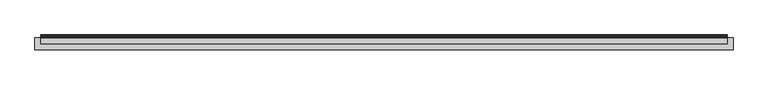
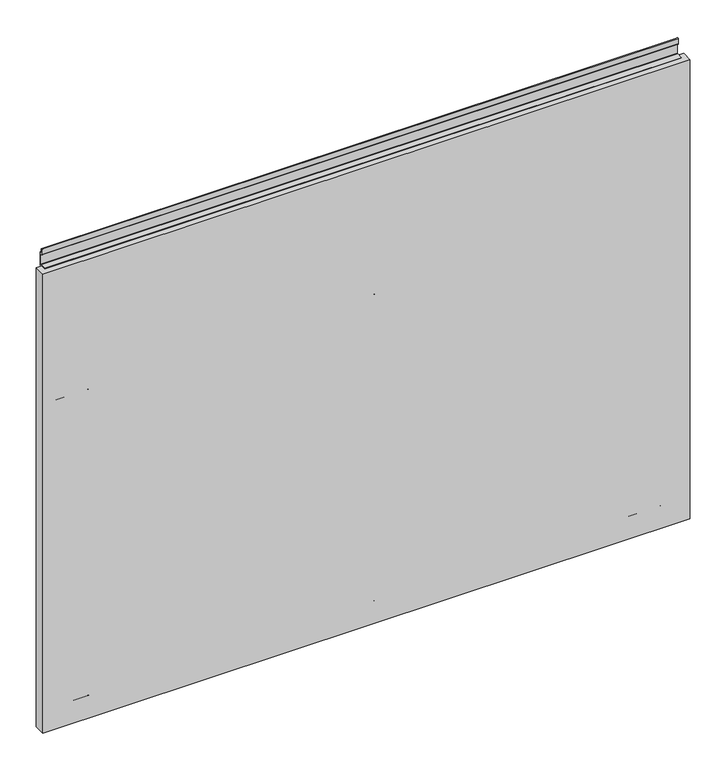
"""IFC4 building model written with IfcOpenShell, lengths in millimetres: furniture geometry, Geiger_GeigerOneCasegoods_WallTileAcceptsTileAboveFabric : RR Fabric 60Wx 1.25Dx 45H."""

from ifc_helpers import new_model, si_unit, point, frame, frame_2d, origin, origin_with_axes, place, context, project, spatial, polyline, circle_curve, trimmed, segment, composite_curve, outline, extrude, source, transform, mapped, element, save


def furniture_4866d010(model_context):
    return source(origin(), model_context, "Body", "SweptSolid", [
        extrude(outline(composite_curve([segment(polyline([(-3.5052, 46.3366), (-2.6924, 45.5238), (-0.8128, 45.5238), (0.0, 44.7364), (0.0, 31.3197095)]), True, "CONTINUOUS"), segment(trimmed(circle_curve(frame_2d((-0.7973236, 31.3197095)), 0.7973236), [point((0.0, 31.3197095))], [point((-1.3611166, 30.7559166))], False, "CARTESIAN"), True, "CONTINUOUS"), segment(polyline([(-1.3611166, 30.7559166), (-2.8956, 32.2904), (-2.8956, 39.2246), (-3.7084, 40.012), (-5.6134, 40.012), (-6.4008, 40.8248), (-6.4008, 72.524), (-5.1054, 72.524), (-3.5052, 70.9238), (-3.5052, 46.3366)]), True, "CONTINUOUS")], self_intersect=False)), frame((50.0016, 0.0, 0.0), z_axis=(1.0, 0.0, 0.0), x_axis=(0.0, 1.0, 0.0)), (0.0, 0.0, 1.0), 75.9968),
        extrude(outline(composite_curve([segment(polyline([(-3.5052, 46.3366), (-2.6924, 45.5238), (-0.8128, 45.5238), (0.0, 44.7364), (0.0, 31.3197095)]), True, "CONTINUOUS"), segment(trimmed(circle_curve(frame_2d((-0.7973236, 31.3197095)), 0.7973236), [point((0.0, 31.3197095))], [point((-1.3611166, 30.7559166))], False, "CARTESIAN"), True, "CONTINUOUS"), segment(polyline([(-1.3611166, 30.7559166), (-2.8956, 32.2904), (-2.8956, 39.2246), (-3.7084, 40.012), (-5.6134, 40.012), (-6.4008, 40.8248), (-6.4008, 72.524), (-5.1054, 72.524), (-3.5052, 70.9238), (-3.5052, 46.3366)]), True, "CONTINUOUS")], self_intersect=False)), frame((724.0016, 0.0, 0.0), z_axis=(1.0, 0.0, 0.0), x_axis=(0.0, 1.0, 0.0)), (0.0, 0.0, 1.0), 75.9968),
        extrude(outline(composite_curve([segment(polyline([(-3.5052, 46.3366), (-2.6924, 45.5238), (-0.8128, 45.5238), (0.0, 44.7364), (0.0, 31.3197095)]), True, "CONTINUOUS"), segment(trimmed(circle_curve(frame_2d((-0.7973236, 31.3197095)), 0.7973236), [point((0.0, 31.3197095))], [point((-1.3611166, 30.7559166))], False, "CARTESIAN"), True, "CONTINUOUS"), segment(polyline([(-1.3611166, 30.7559166), (-2.8956, 32.2904), (-2.8956, 39.2246), (-3.7084, 40.012), (-5.6134, 40.012), (-6.4008, 40.8248), (-6.4008, 72.524), (-5.1054, 72.524), (-3.5052, 70.9238), (-3.5052, 46.3366)]), True, "CONTINUOUS")], self_intersect=False)), frame((724.0016, 0.0, 0.0), z_axis=(1.0, 0.0, 0.0), x_axis=(0.0, 1.0, 0.0)), (0.0, 0.0, 1.0), 75.9968),
        extrude(outline(composite_curve([segment(polyline([(-3.5052, 808.2186), (-2.6924, 807.4058), (-0.8128, 807.4058), (0.0, 806.6184), (0.0, 793.2017095)]), True, "CONTINUOUS"), segment(trimmed(circle_curve(frame_2d((-0.7973236, 793.2017095)), 0.7973236), [point((0.0, 793.2017095))], [point((-1.3611166, 792.6379166))], False, "CARTESIAN"), True, "CONTINUOUS"), segment(polyline([(-1.3611166, 792.6379166), (-2.8956, 794.1724), (-2.8956, 801.1066), (-3.7084, 801.894), (-5.6134, 801.894), (-6.4008, 802.7068), (-6.4008, 834.406), (-5.1054, 834.406), (-3.5052, 832.8058), (-3.5052, 808.2186)]), True, "CONTINUOUS")], self_intersect=False)), frame((724.0016, 0.0, 0.0), z_axis=(1.0, 0.0, 0.0), x_axis=(0.0, 1.0, 0.0)), (0.0, 0.0, 1.0), 75.9968),
        extrude(outline(composite_curve([segment(polyline([(-3.5052, 808.2186), (-2.6924, 807.4058), (-0.8128, 807.4058), (0.0, 806.6184), (0.0, 793.2017095)]), True, "CONTINUOUS"), segment(trimmed(circle_curve(frame_2d((-0.7973236, 793.2017095)), 0.7973236), [point((0.0, 793.2017095))], [point((-1.3611166, 792.6379166))], False, "CARTESIAN"), True, "CONTINUOUS"), segment(polyline([(-1.3611166, 792.6379166), (-2.8956, 794.1724), (-2.8956, 801.1066), (-3.7084, 801.894), (-5.6134, 801.894), (-6.4008, 802.7068), (-6.4008, 834.406), (-5.1054, 834.406), (-3.5052, 832.8058), (-3.5052, 808.2186)]), True, "CONTINUOUS")], self_intersect=False)), frame((724.0016, 0.0, 0.0), z_axis=(1.0, 0.0, 0.0), x_axis=(0.0, 1.0, 0.0)), (0.0, 0.0, 1.0), 75.9968),
        extrude(outline(composite_curve([segment(polyline([(-3.5052, 808.2186), (-2.6924, 807.4058), (-0.8128, 807.4058), (0.0, 806.6184), (0.0, 793.2017095)]), True, "CONTINUOUS"), segment(trimmed(circle_curve(frame_2d((-0.7973236, 793.2017095)), 0.7973236), [point((0.0, 793.2017095))], [point((-1.3611166, 792.6379166))], False, "CARTESIAN"), True, "CONTINUOUS"), segment(polyline([(-1.3611166, 792.6379166), (-2.8956, 794.1724), (-2.8956, 801.1066), (-3.7084, 801.894), (-5.6134, 801.894), (-6.4008, 802.7068), (-6.4008, 834.406), (-5.1054, 834.406), (-3.5052, 832.8058), (-3.5052, 808.2186)]), True, "CONTINUOUS")], self_intersect=False)), frame((50.0016, 0.0, 0.0), z_axis=(1.0, 0.0, 0.0), x_axis=(0.0, 1.0, 0.0)), (0.0, 0.0, 1.0), 75.9968),
        extrude(outline(composite_curve([segment(polyline([(-3.5052, 808.2186), (-2.6924, 807.4058), (-0.8128, 807.4058), (0.0, 806.6184), (0.0, 793.2017095)]), True, "CONTINUOUS"), segment(trimmed(circle_curve(frame_2d((-0.7973236, 793.2017095)), 0.7973236), [point((0.0, 793.2017095))], [point((-1.3611166, 792.6379166))], False, "CARTESIAN"), True, "CONTINUOUS"), segment(polyline([(-1.3611166, 792.6379166), (-2.8956, 794.1724), (-2.8956, 801.1066), (-3.7084, 801.894), (-5.6134, 801.894), (-6.4008, 802.7068), (-6.4008, 834.406), (-5.1054, 834.406), (-3.5052, 832.8058), (-3.5052, 808.2186)]), True, "CONTINUOUS")], self_intersect=False)), frame((1398.0016, 0.0, 0.0), z_axis=(1.0, 0.0, 0.0), x_axis=(0.0, 1.0, 0.0)), (0.0, 0.0, 1.0), 75.9968),
        extrude(outline(composite_curve([segment(polyline([(-3.506, 800.1156), (-3.506, 793.1814), (-2.6932, 792.394), (-0.7882, 792.394), (-0.0008, 791.5812), (-0.0008, 759.882), (-1.2962, 759.882), (-2.8964, 761.4822), (-2.8964, 786.0694), (-3.7092, 786.8822), (-5.5888, 786.8822), (-6.4016, 787.6696), (-6.4016, 801.0883458)]), True, "CONTINUOUS"), segment(trimmed(circle_curve(frame_2d((-5.6051277, 801.0883458)), 0.7964723), [point((-6.4016, 801.0883458))], [point((-5.0419368, 801.6515368))], False, "CARTESIAN"), True, "CONTINUOUS"), segment(polyline([(-5.0419368, 801.6515368), (-3.506, 800.1156)]), True, "CONTINUOUS")], self_intersect=False)), frame((12.5, 0.0, 0.0), z_axis=(1.0, 0.0, 0.0), x_axis=(0.0, 1.0, 0.0)), (0.0, 0.0, 1.0), 1499.0),
        extrude(outline(polyline([(1524.0, -6.4008), (1524.0, -32.4008), (0.0, -32.4008), (0.0, -6.4008), (1524.0, -6.4008)])), origin_with_axes(), (0.0, 0.0, 1.0), 1142.0),
        extrude(outline(composite_curve([segment(polyline([(-3.5052, 46.3366), (-2.6924, 45.5238), (-0.8128, 45.5238), (0.0, 44.7364), (0.0, 31.3197095)]), True, "CONTINUOUS"), segment(trimmed(circle_curve(frame_2d((-0.7973236, 31.3197095)), 0.7973236), [point((0.0, 31.3197095))], [point((-1.3611166, 30.7559166))], False, "CARTESIAN"), True, "CONTINUOUS"), segment(polyline([(-1.3611166, 30.7559166), (-2.8956, 32.2904), (-2.8956, 39.2246), (-3.7084, 40.012), (-5.6134, 40.012), (-6.4008, 40.8248), (-6.4008, 72.524), (-5.1054, 72.524), (-3.5052, 70.9238), (-3.5052, 46.3366)]), True, "CONTINUOUS")], self_intersect=False)), frame((1398.0, 0.0, 0.0), z_axis=(1.0, 0.0, 0.0), x_axis=(0.0, 1.0, 0.0)), (0.0, 0.0, 1.0), 76.0),
        extrude(outline(composite_curve([segment(polyline([(-3.5052, 1182.2336), (-3.5052, 1175.2994), (-2.7178, 1174.512), (-0.8128, 1174.512), (0.0, 1173.6992), (0.0, 1140.3998), (-2.6924, 1140.3998), (-3.5052, 1139.6124), (-3.5052, 1125.8964), (-2.6924, 1125.109), (0.0, 1125.109), (0.0, 1122.188), (-5.6134, 1122.188), (-6.4008, 1123.0008), (-6.4008, 1142.0), (-18.9992, 1142.0), (-18.9992, 1143.6002), (-3.7084, 1143.6002), (-2.8956, 1144.3876), (-2.8956, 1168.2128), (-3.7084, 1169.0002), (-5.6134, 1169.0002), (-6.4008, 1169.813), (-6.4008, 1183.2057925)]), True, "CONTINUOUS"), segment(trimmed(circle_curve(frame_2d((-5.6040985, 1183.2057925)), 0.7967015), [point((-6.4008, 1183.2057925))], [point((-5.0407455, 1183.7691455))], False, "CARTESIAN"), True, "CONTINUOUS"), segment(polyline([(-5.0407455, 1183.7691455), (-3.5052, 1182.2336)]), True, "CONTINUOUS")], self_intersect=False)), frame((12.5, 0.0, 0.0), z_axis=(1.0, 0.0, 0.0), x_axis=(0.0, 1.0, 0.0)), (0.0, 0.0, 1.0), 1499.0),
    ])


if __name__ == "__main__":
    model = new_model("IFC4")
    model_context = context("Model", 3, world=origin())
    ifc_project = project(units=[si_unit("LENGTHUNIT", "METRE", prefix="MILLI")], contexts=[model_context])
    site = spatial("IfcSite", under=ifc_project)
    building = spatial("IfcBuilding", under=site)
    placement = place(None, origin())
    furniture_shape = furniture_4866d010(model_context)
    element("IfcFurniture", 1, ObjectType="Geiger_GeigerOneCasegoods_WallTileAcceptsTileAboveFabric : RR Fabric 60Wx 1.25Dx 45H", at=placement, inside=building, context=model_context, shape_type="MappedRepresentation", body=[
        mapped(furniture_shape, transform((0.0, 0.0, 0.0), x_axis=(1.0, 0.0, 0.0), y_axis=(0.0, 1.0, 0.0), z_axis=(0.0, 0.0, 1.0))),
    ])
    save(model, "model.ifc")
